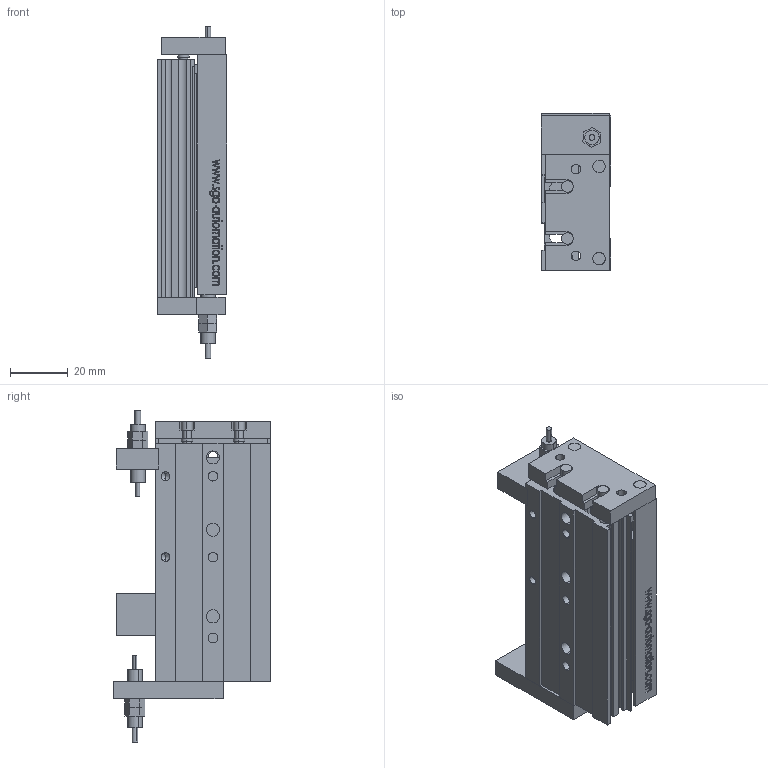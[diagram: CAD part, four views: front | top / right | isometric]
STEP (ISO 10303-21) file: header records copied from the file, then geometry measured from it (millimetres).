
FILE_DESCRIPTION (( 'STEP AP203' ), '1' );
FILE_NAME ('GDX 8-40.STEP', '2013-02-21T16:15:43', ( 'Conseil Régional Haute-Normandie' ), ( 'Conseil Régional Haute-Normandie' ), 'SwSTEP 2.0', 'SolidWorks 2010', '' );
FILE_SCHEMA (( 'CONFIG_CONTROL_DESIGN' ));
Length unit declared in the file: millimetre
Products named in the file (14): Pièce7 GDX 8-10_Default; Pièce6 GDX 8-10_Default; Pièce5 GDX 8-10_Default; Pièce4 GDX 8-10_Default; Pièce2 GDX 8-10_Default; Pièce1 GDX 8-10_Default; Pièce11 GDX 8-40_Default; GDX 8-40; Pièce9 GDX 8-10_Default; Pièce8 GDX 8-10_Default; Pièce3 GDX 8-10_Default; Pièce 12 GDX 8-40_Default; Pièce 10 GDX 8-40_Default; Pièce13 GDX 8-40_Default
Assembly tree (27 placements, depth 2):
  GDX 8-40
    Pièce7 GDX 8-10_Default
    Pièce4 GDX 8-10_Default  x2
    Pièce6 GDX 8-10_Default  x8
    Pièce11 GDX 8-40_Default
    Pièce8 GDX 8-10_Default  x2
    Pièce3 GDX 8-10_Default
    Pièce 12 GDX 8-40_Default
    Pièce5 GDX 8-10_Default  x4
    Pièce1 GDX 8-10_Default
    Pièce9 GDX 8-10_Default  x2
    Pièce2 GDX 8-10_Default
    Pièce13 GDX 8-40_Default  x2
    Pièce 10 GDX 8-40_Default
Bounding box: 24 x 54.5 x 114.9 mm (x, y, z)
Volume: 66417.7 mm3; surface area: 45909 mm2
Topology: 27 solids, 27 shells, 732 faces, 1854 edges, 1212 vertices
Faces by surface type: plane 381, cylinder 190, bspline 133, cone 28
Entity records: 30600 total; most frequent: CARTESIAN_POINT 14178, ORIENTED_EDGE 3172, DIRECTION 2608, EDGE_CURVE 1586, VERTEX_POINT 1052, VECTOR 1048, LINE 1048, AXIS2_PLACEMENT_3D 780
